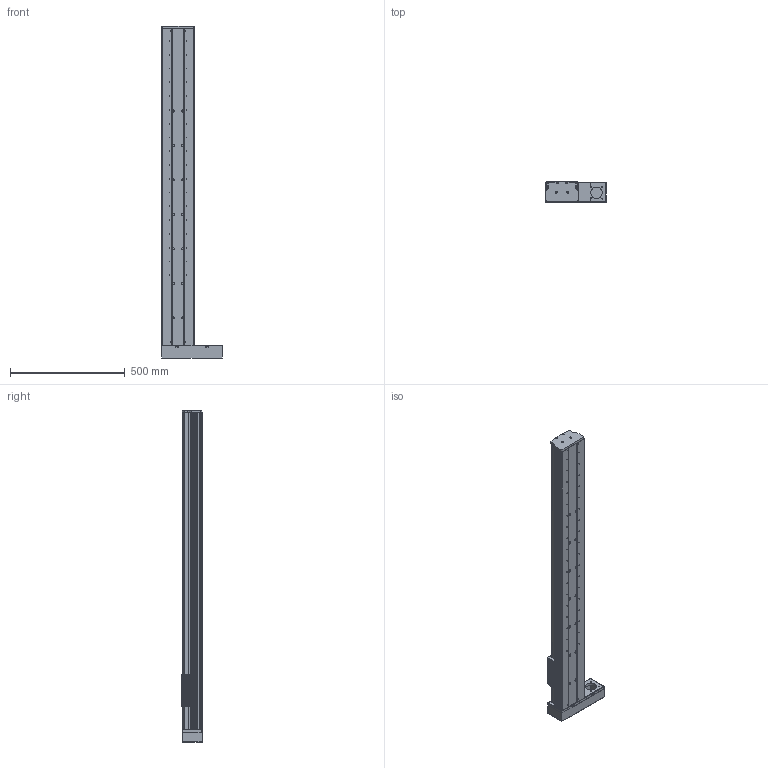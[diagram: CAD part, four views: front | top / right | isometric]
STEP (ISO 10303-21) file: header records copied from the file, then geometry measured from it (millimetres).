
FILE_DESCRIPTION (( 'STEP AP203' ), '1' );
FILE_NAME ('CF140衵殏1150俴最.STEP', '2020-06-13T01:29:49', ( 'Micorosoft' ), ( 'Micorosoft' ), 'SwSTEP 2.0', 'SolidWorks 2016', '' );
FILE_SCHEMA (( 'CONFIG_CONTROL_DESIGN' ));
Length unit declared in the file: millimetre
Products named in the file (12): 15賑輸; 奻狟殏肮祭謫欶; 15絳寢; CF140衵殏1150俴最; CF140蹟譫釱; CF140賑雄啣; CF140盓傅釱; CF140裔啣; CF140萇儂啣; CF120B-20佪裝; 菁釱; 140B酘殏殏萇儂啣
Assembly tree (15 placements, depth 2):
  CF140衵殏1150俴最
    菁釱
    15賑輸  x4
    15絳寢  x2
    CF140蹟譫釱
    CF140賑雄啣
    CF140盓傅釱
    CF140裔啣
    CF140萇儂啣
    CF120B-20佪裝
    140B酘殏殏萇儂啣
    奻狟殏肮祭謫欶
Bounding box: 262 x 90 x 1445 mm (x, y, z)
Volume: 5811405.4 mm3; surface area: 2225691.5 mm2
Topology: 15 solids, 15 shells, 1301 faces, 3569 edges, 2308 vertices
Faces by surface type: cylinder 741, plane 469, cone 91
Entity records: 39046 total; most frequent: CARTESIAN_POINT 7570, DIRECTION 6523, ORIENTED_EDGE 6146, EDGE_CURVE 3073, AXIS2_PLACEMENT_3D 2445, VERTEX_POINT 2036, LINE 1633, VECTOR 1633
